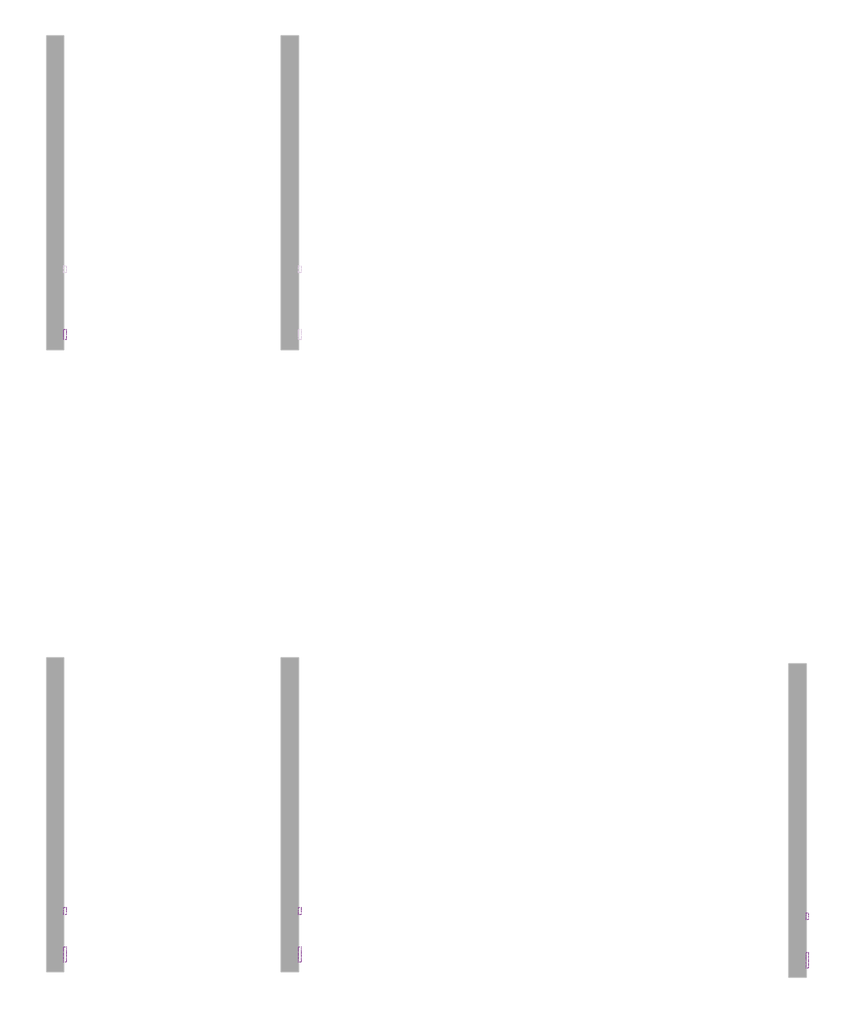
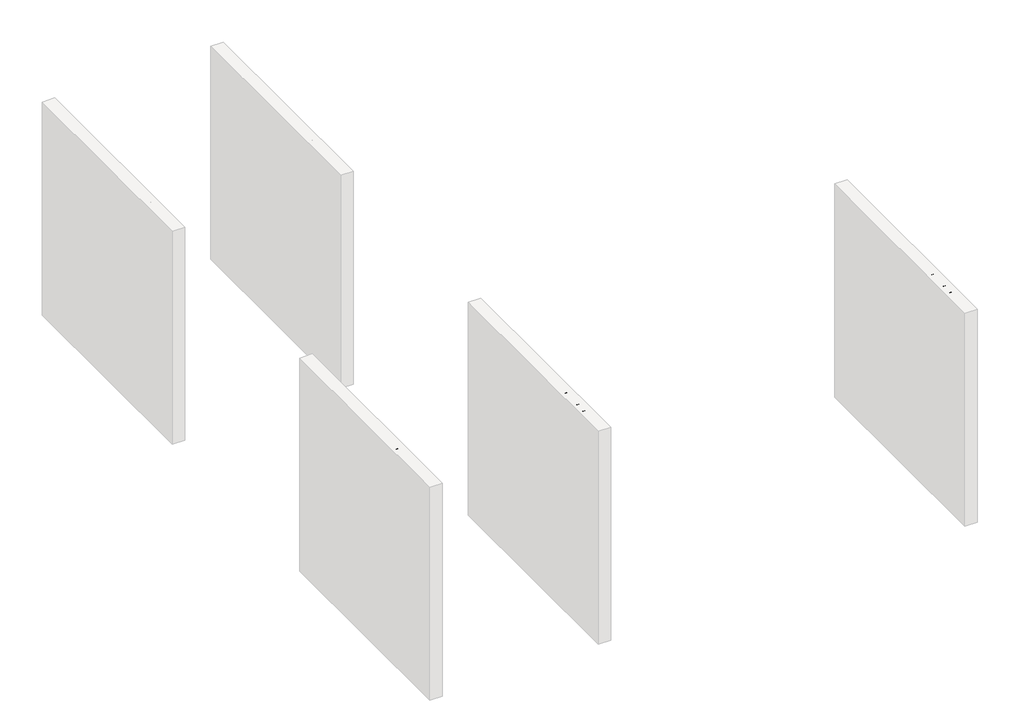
# One storey, part 7 of 9: 7 proxies.
"""IFC4 building model written with IfcOpenShell, lengths in millimetres."""

from ifc_helpers import new_model, si_unit, frame, origin, place, context, project, spatial, polyline, outline, extrude, element, save

model = new_model("IFC4")

# Units and contexts
model_context = context("Model", 3, world=origin())
ifc_project = project(units=[si_unit("LENGTHUNIT", "METRE", prefix="MILLI")], contexts=[model_context])

# Site, building, storey
site = spatial("IfcSite", under=ifc_project)
building = spatial("IfcBuilding", under=site)
storey = spatial("IfcBuildingStorey", under=building, Name="PORTOBELLO - SHOWROOM", Elevation=0.0)

# Proxies
placement = place(None, origin())
element("IfcBuildingElementProxy", 1, Name="10mm Arial", ObjectType="10mm Arial", at=placement, inside=storey, context=model_context, shape_type="SweptSolid", body=[
    extrude(outline(polyline([(6301.4109297, 2548.4925024), (6274.0159838, 2648.9488126), (6286.9654301, 2648.9488126), (6302.8579323, 2582.9262572), (6307.7630255, 2562.5455946), (6313.0114753, 2580.5718124), (6332.926154, 2648.9488126), (6351.5900339, 2648.9488126), (6366.060059, 2599.3828451), (6376.8267388, 2562.5455946), (6381.5846792, 2582.337646), (6397.6243342, 2648.9488126), (6410.5737804, 2648.9488126), (6383.1543091, 2548.4925024), (6369.738879, 2548.4925024), (6345.654871, 2625.9929761), (6342.2948821, 2636.8087067), (6338.5179603, 2623.7856841), (6316.5676679, 2548.4925024), (6301.4109297, 2548.4925024)])), frame((127826.5708693, 0.0, 0.0), z_axis=(1.0, 0.0, 0.0), x_axis=(0.0, 1.0, 0.0)), (0.0, 0.0, 1.0), 20.0),
    extrude(outline(polyline([(6421.5611894, 2548.4925024), (6421.5611894, 2648.9488126), (6434.1182281, 2648.9488126), (6434.1182281, 2612.0134603), (6443.9100206, 2620.8794163), (6455.9704186, 2623.834735), (6470.0725618, 2620.6096362), (6478.6319495, 2611.6946292), (6481.2071235, 2595.1889903), (6481.2071235, 2548.4925024), (6468.6500847, 2548.4925024), (6468.6500847, 2593.8891406), (6464.6524337, 2607.1328925), (6453.3216683, 2611.2776963), (6443.0332351, 2608.4817931), (6436.1661046, 2600.903424), (6434.1182281, 2587.6841976), (6434.1182281, 2548.4925024), (6421.5611894, 2548.4925024)])), frame((127826.5708693, 0.0, 0.0), z_axis=(1.0, 0.0, 0.0), x_axis=(0.0, 1.0, 0.0)), (0.0, 0.0, 1.0), 20.0),
    extrude(outline(polyline([(127846.5708693, 6511.0300906), (127846.5708693, 6498.4730518), (127826.5708693, 6498.4730518), (127826.5708693, 6511.0300906), (127846.5708693, 6511.0300906)])), frame((0.0, 0.0, 2636.3917738), z_axis=(0.0, 0.0, 1.0), x_axis=(1.0, 0.0, 0.0)), (0.0, 0.0, 1.0), 12.5570388),
    extrude(outline(polyline([(127846.5708693, 6511.0300906), (127846.5708693, 6498.4730518), (127826.5708693, 6498.4730518), (127826.5708693, 6511.0300906), (127846.5708693, 6511.0300906)])), frame((0.0, 0.0, 2548.4925024), z_axis=(0.0, 0.0, 1.0), x_axis=(1.0, 0.0, 0.0)), (0.0, 0.0, 1.0), 73.7726028),
    extrude(outline(polyline([(6556.5493561, 2558.9648766), (6558.118986, 2548.1246204), (6548.7257324, 2546.9228726), (6538.2043073, 2549.0075372), (6532.9558575, 2554.4767162), (6531.4352786, 2568.7260122), (6531.4352786, 2609.7080664), (6522.0174995, 2609.7080664), (6522.0174995, 2622.2651052), (6531.4352786, 2622.2651052), (6531.4352786, 2640.1932211), (6543.9923174, 2647.5753865), (6543.9923174, 2622.2651052), (6556.5493561, 2622.2651052), (6556.5493561, 2609.7080664), (6543.9923174, 2609.7080664), (6543.9923174, 2569.0938942), (6544.654505, 2562.619171), (6546.8004833, 2560.3260399), (6551.0801771, 2559.4799113), (6556.5493561, 2558.9648766)])), frame((127826.5708693, 0.0, 0.0), z_axis=(1.0, 0.0, 0.0), x_axis=(0.0, 1.0, 0.0)), (0.0, 0.0, 1.0), 20.0),
    extrude(outline(polyline([(6620.757027, 2570.4673203), (6633.0688111, 2568.8976904), (6628.6327674, 2559.6209328), (6621.5541047, 2552.6863572), (6611.9922385, 2548.3637437), (6600.1065844, 2546.9228726), (6585.3729105, 2549.4091417), (6574.0360136, 2556.8679492), (6566.8071324, 2568.814917), (6564.3975054, 2584.7656671), (6566.8316579, 2601.2529119), (6574.1341155, 2613.5830901), (6585.3177282, 2621.2718238), (6599.3953458, 2623.834735), (6613.0345708, 2621.2779552), (6623.9330749, 2613.6076156), (6631.0791827, 2601.3019628), (6633.4612186, 2584.8392435), (6633.3876422, 2581.4547292), (6576.9545441, 2581.4547292), (6579.1281136, 2572.0553442), (6584.177294, 2565.1452941), (6591.4644232, 2560.896257), (6600.351839, 2559.4799113), (6612.6636231, 2562.1041362), (6620.757027, 2570.4673203)]), holes=[polyline([(6576.9545441, 2594.011768), (6620.9041798, 2594.011768), (6615.8764592, 2605.3915843), (6608.5556075, 2609.8061683), (6599.3462949, 2611.2776963), (6583.8829884, 2606.5810695), (6579.017749, 2601.0904307), (6576.9545441, 2594.011768)])]), frame((127826.5708693, 0.0, 0.0), z_axis=(1.0, 0.0, 0.0), x_axis=(0.0, 1.0, 0.0)), (0.0, 0.0, 1.0), 20.0),
])
element("IfcBuildingElementProxy", 2, Name="10mm Arial", ObjectType="10mm Arial", at=placement, inside=storey, context=model_context, shape_type="SweptSolid", body=[
    extrude(outline(polyline([(6351.4109297, 2548.4925024), (6324.0159838, 2648.9488126), (6336.9654301, 2648.9488126), (6352.8579323, 2582.9262572), (6357.7630255, 2562.5455946), (6363.0114753, 2580.5718124), (6382.926154, 2648.9488126), (6401.5900339, 2648.9488126), (6416.060059, 2599.3828451), (6426.8267388, 2562.5455946), (6431.5846792, 2582.337646), (6447.6243342, 2648.9488126), (6460.5737804, 2648.9488126), (6433.1543091, 2548.4925024), (6419.738879, 2548.4925024), (6395.654871, 2625.9929761), (6392.2948821, 2636.8087067), (6388.5179603, 2623.7856841), (6366.5676679, 2548.4925024), (6351.4109297, 2548.4925024)])), frame((123459.5859035, 0.0, 0.0), z_axis=(1.0, 0.0, 0.0), x_axis=(0.0, 1.0, 0.0)), (0.0, 0.0, 1.0), 20.0),
    extrude(outline(polyline([(6471.5611894, 2548.4925024), (6471.5611894, 2648.9488126), (6484.1182281, 2648.9488126), (6484.1182281, 2612.0134603), (6493.9100206, 2620.8794163), (6505.9704186, 2623.834735), (6520.0725618, 2620.6096362), (6528.6319495, 2611.6946292), (6531.2071235, 2595.1889903), (6531.2071235, 2548.4925024), (6518.6500847, 2548.4925024), (6518.6500847, 2593.8891406), (6514.6524337, 2607.1328925), (6503.3216683, 2611.2776963), (6493.0332351, 2608.4817931), (6486.1661046, 2600.903424), (6484.1182281, 2587.6841976), (6484.1182281, 2548.4925024), (6471.5611894, 2548.4925024)])), frame((123459.5859035, 0.0, 0.0), z_axis=(1.0, 0.0, 0.0), x_axis=(0.0, 1.0, 0.0)), (0.0, 0.0, 1.0), 20.0),
    extrude(outline(polyline([(123479.5859035, 6561.0300906), (123479.5859035, 6548.4730518), (123459.5859035, 6548.4730518), (123459.5859035, 6561.0300906), (123479.5859035, 6561.0300906)])), frame((0.0, 0.0, 2636.3917738), z_axis=(0.0, 0.0, 1.0), x_axis=(1.0, 0.0, 0.0)), (0.0, 0.0, 1.0), 12.5570388),
    extrude(outline(polyline([(123479.5859035, 6561.0300906), (123479.5859035, 6548.4730518), (123459.5859035, 6548.4730518), (123459.5859035, 6561.0300906), (123479.5859035, 6561.0300906)])), frame((0.0, 0.0, 2548.4925024), z_axis=(0.0, 0.0, 1.0), x_axis=(1.0, 0.0, 0.0)), (0.0, 0.0, 1.0), 73.7726028),
    extrude(outline(polyline([(6606.5493561, 2558.9648766), (6608.118986, 2548.1246204), (6598.7257324, 2546.9228726), (6588.2043073, 2549.0075372), (6582.9558575, 2554.4767162), (6581.4352786, 2568.7260122), (6581.4352786, 2609.7080664), (6572.0174995, 2609.7080664), (6572.0174995, 2622.2651052), (6581.4352786, 2622.2651052), (6581.4352786, 2640.1932211), (6593.9923174, 2647.5753865), (6593.9923174, 2622.2651052), (6606.5493561, 2622.2651052), (6606.5493561, 2609.7080664), (6593.9923174, 2609.7080664), (6593.9923174, 2569.0938942), (6594.654505, 2562.619171), (6596.8004833, 2560.3260399), (6601.0801771, 2559.4799113), (6606.5493561, 2558.9648766)])), frame((123459.5859035, 0.0, 0.0), z_axis=(1.0, 0.0, 0.0), x_axis=(0.0, 1.0, 0.0)), (0.0, 0.0, 1.0), 20.0),
    extrude(outline(polyline([(6670.757027, 2570.4673203), (6683.0688111, 2568.8976904), (6678.6327674, 2559.6209328), (6671.5541047, 2552.6863572), (6661.9922385, 2548.3637437), (6650.1065844, 2546.9228726), (6635.3729105, 2549.4091417), (6624.0360136, 2556.8679492), (6616.8071324, 2568.814917), (6614.3975054, 2584.7656671), (6616.8316579, 2601.2529119), (6624.1341155, 2613.5830901), (6635.3177282, 2621.2718238), (6649.3953458, 2623.834735), (6663.0345708, 2621.2779552), (6673.9330749, 2613.6076156), (6681.0791827, 2601.3019628), (6683.4612186, 2584.8392435), (6683.3876422, 2581.4547292), (6626.9545441, 2581.4547292), (6629.1281136, 2572.0553442), (6634.177294, 2565.1452941), (6641.4644232, 2560.896257), (6650.351839, 2559.4799113), (6662.6636231, 2562.1041362), (6670.757027, 2570.4673203)]), holes=[polyline([(6626.9545441, 2594.011768), (6670.9041798, 2594.011768), (6665.8764592, 2605.3915843), (6658.5556075, 2609.8061683), (6649.3462949, 2611.2776963), (6633.8829884, 2606.5810695), (6629.017749, 2601.0904307), (6626.9545441, 2594.011768)])]), frame((123459.5859035, 0.0, 0.0), z_axis=(1.0, 0.0, 0.0), x_axis=(0.0, 1.0, 0.0)), (0.0, 0.0, 1.0), 20.0),
])
element("IfcBuildingElementProxy", 3, Name="10mm Arial", ObjectType="10mm Arial", at=placement, inside=storey, context=model_context, shape_type="SweptSolid", body=[
    extrude(outline(polyline([(6351.4109297, 2548.4925024), (6324.0159838, 2648.9488126), (6336.9654301, 2648.9488126), (6352.8579323, 2582.9262572), (6357.7630255, 2562.5455946), (6363.0114753, 2580.5718124), (6382.926154, 2648.9488126), (6401.5900339, 2648.9488126), (6416.060059, 2599.3828451), (6426.8267388, 2562.5455946), (6431.5846792, 2582.337646), (6447.6243342, 2648.9488126), (6460.5737804, 2648.9488126), (6433.1543091, 2548.4925024), (6419.738879, 2548.4925024), (6395.654871, 2625.9929761), (6392.2948821, 2636.8087067), (6388.5179603, 2623.7856841), (6366.5676679, 2548.4925024), (6351.4109297, 2548.4925024)])), frame((121439.5859035, 0.0, 0.0), z_axis=(1.0, 0.0, 0.0), x_axis=(0.0, 1.0, 0.0)), (0.0, 0.0, 1.0), 20.0),
    extrude(outline(polyline([(6471.5611894, 2548.4925024), (6471.5611894, 2648.9488126), (6484.1182281, 2648.9488126), (6484.1182281, 2612.0134603), (6493.9100206, 2620.8794163), (6505.9704186, 2623.834735), (6520.0725618, 2620.6096362), (6528.6319495, 2611.6946292), (6531.2071235, 2595.1889903), (6531.2071235, 2548.4925024), (6518.6500847, 2548.4925024), (6518.6500847, 2593.8891406), (6514.6524337, 2607.1328925), (6503.3216683, 2611.2776963), (6493.0332351, 2608.4817931), (6486.1661046, 2600.903424), (6484.1182281, 2587.6841976), (6484.1182281, 2548.4925024), (6471.5611894, 2548.4925024)])), frame((121439.5859035, 0.0, 0.0), z_axis=(1.0, 0.0, 0.0), x_axis=(0.0, 1.0, 0.0)), (0.0, 0.0, 1.0), 20.0),
    extrude(outline(polyline([(121459.5859035, 6561.0300906), (121459.5859035, 6548.4730518), (121439.5859035, 6548.4730518), (121439.5859035, 6561.0300906), (121459.5859035, 6561.0300906)])), frame((0.0, 0.0, 2636.3917738), z_axis=(0.0, 0.0, 1.0), x_axis=(1.0, 0.0, 0.0)), (0.0, 0.0, 1.0), 12.5570388),
    extrude(outline(polyline([(121459.5859035, 6561.0300906), (121459.5859035, 6548.4730518), (121439.5859035, 6548.4730518), (121439.5859035, 6561.0300906), (121459.5859035, 6561.0300906)])), frame((0.0, 0.0, 2548.4925024), z_axis=(0.0, 0.0, 1.0), x_axis=(1.0, 0.0, 0.0)), (0.0, 0.0, 1.0), 73.7726028),
    extrude(outline(polyline([(6606.5493561, 2558.9648766), (6608.118986, 2548.1246204), (6598.7257324, 2546.9228726), (6588.2043073, 2549.0075372), (6582.9558575, 2554.4767162), (6581.4352786, 2568.7260122), (6581.4352786, 2609.7080664), (6572.0174995, 2609.7080664), (6572.0174995, 2622.2651052), (6581.4352786, 2622.2651052), (6581.4352786, 2640.1932211), (6593.9923174, 2647.5753865), (6593.9923174, 2622.2651052), (6606.5493561, 2622.2651052), (6606.5493561, 2609.7080664), (6593.9923174, 2609.7080664), (6593.9923174, 2569.0938942), (6594.654505, 2562.619171), (6596.8004833, 2560.3260399), (6601.0801771, 2559.4799113), (6606.5493561, 2558.9648766)])), frame((121439.5859035, 0.0, 0.0), z_axis=(1.0, 0.0, 0.0), x_axis=(0.0, 1.0, 0.0)), (0.0, 0.0, 1.0), 20.0),
    extrude(outline(polyline([(6670.757027, 2570.4673203), (6683.0688111, 2568.8976904), (6678.6327674, 2559.6209328), (6671.5541047, 2552.6863572), (6661.9922385, 2548.3637437), (6650.1065844, 2546.9228726), (6635.3729105, 2549.4091417), (6624.0360136, 2556.8679492), (6616.8071324, 2568.814917), (6614.3975054, 2584.7656671), (6616.8316579, 2601.2529119), (6624.1341155, 2613.5830901), (6635.3177282, 2621.2718238), (6649.3953458, 2623.834735), (6663.0345708, 2621.2779552), (6673.9330749, 2613.6076156), (6681.0791827, 2601.3019628), (6683.4612186, 2584.8392435), (6683.3876422, 2581.4547292), (6626.9545441, 2581.4547292), (6629.1281136, 2572.0553442), (6634.177294, 2565.1452941), (6641.4644232, 2560.896257), (6650.351839, 2559.4799113), (6662.6636231, 2562.1041362), (6670.757027, 2570.4673203)]), holes=[polyline([(6626.9545441, 2594.011768), (6670.9041798, 2594.011768), (6665.8764592, 2605.3915843), (6658.5556075, 2609.8061683), (6649.3462949, 2611.2776963), (6633.8829884, 2606.5810695), (6629.017749, 2601.0904307), (6626.9545441, 2594.011768)])]), frame((121439.5859035, 0.0, 0.0), z_axis=(1.0, 0.0, 0.0), x_axis=(0.0, 1.0, 0.0)), (0.0, 0.0, 1.0), 20.0),
])
element("IfcBuildingElementProxy", 4, Name="10mm Arial", ObjectType="10mm Arial", at=placement, inside=storey, context=model_context, shape_type="SweptSolid", body=[
    extrude(outline(polyline([(11730.5226583, 2587.7332486), (11730.5226583, 2600.2902873), (11771.3330343, 2600.2902873), (11771.3330343, 2562.7417984), (11751.1853637, 2550.8959981), (11729.8849962, 2546.9228726), (11715.7981814, 2548.5016995), (11703.0663987, 2553.2381802), (11692.4897914, 2560.9667677), (11684.8685027, 2571.5219153), (11680.2607807, 2584.1831873), (11678.7248734, 2598.2301482), (11680.2546493, 2612.3782766), (11684.8439772, 2625.5392549), (11692.3027847, 2636.5787805), (11702.4409993, 2644.3625504), (11714.7895716, 2648.9794694), (11728.879452, 2650.5184424), (11748.5243506, 2646.9499871), (11762.2953999, 2637.0171732), (11769.8860318, 2620.4011697), (11758.3100117, 2617.1392827), (11752.5833153, 2628.752091), (11742.7976542, 2635.4475433), (11728.6832483, 2637.9614036), (11712.6068051, 2635.2513396), (11701.6684471, 2628.1389544), (11695.2059868, 2618.4636579), (11691.2819121, 2598.745183), (11696.0030644, 2576.8562043), (11709.7373256, 2563.7596052), (11728.879452, 2559.4799113), (11746.0595412, 2562.7050102), (11758.7759955, 2569.5844035), (11758.7759955, 2587.7332486), (11730.5226583, 2587.7332486)])), frame((121439.5859035, 0.0, 0.0), z_axis=(1.0, 0.0, 0.0), x_axis=(0.0, 1.0, 0.0)), (0.0, 0.0, 1.0), 20.0),
    extrude(outline(polyline([(11790.1685924, 2548.4925024), (11790.1685924, 2622.2651052), (11801.1560014, 2622.2651052), (11801.1560014, 2611.3512727), (11808.9550997, 2621.4067139), (11816.8032489, 2623.834735), (11829.4093386, 2619.9597114), (11825.2154839, 2608.7025223), (11816.386316, 2611.2776963), (11809.2861935, 2608.8006242), (11804.7612449, 2601.9334936), (11802.7256312, 2587.2672647), (11802.7256312, 2548.4925024), (11790.1685924, 2548.4925024)])), frame((121439.5859035, 0.0, 0.0), z_axis=(1.0, 0.0, 0.0), x_axis=(0.0, 1.0, 0.0)), (0.0, 0.0, 1.0), 20.0),
    extrude(outline(polyline([(11884.3463832, 2557.9102815), (11872.1694892, 2549.3999447), (11858.7172709, 2546.9228726), (11848.223437, 2548.4127947), (11840.4825867, 2552.8825609), (11835.7093178, 2559.6699837), (11834.1182281, 2568.1128755), (11836.5217238, 2578.0456894), (11842.8370314, 2585.2561765), (11851.6294111, 2589.3764548), (11862.4941927, 2591.2649157), (11884.2728068, 2595.5813978), (11884.3463832, 2598.377301), (11880.8882925, 2607.6479272), (11867.0068785, 2611.2776963), (11854.3026869, 2608.8619378), (11848.2448967, 2600.2902873), (11835.687858, 2601.8599172), (11841.1202488, 2614.1226504), (11852.0586068, 2621.308612), (11868.6255593, 2623.834735), (11883.8436111, 2621.6029176), (11892.4397871, 2615.9988485), (11896.2902853, 2607.476249), (11896.903422, 2596.4888401), (11896.903422, 2580.866118), (11897.5410841, 2559.0507157), (11900.0426817, 2548.4925024), (11887.4856429, 2548.4925024), (11884.3463832, 2557.9102815)]), holes=[polyline([(11884.3463832, 2583.024359), (11864.088348, 2579.1738608), (11853.2848801, 2577.1382471), (11848.3920495, 2573.8273092), (11846.6752669, 2568.9957923), (11850.4154005, 2562.2022381), (11861.3905467, 2559.4799113), (11874.0947383, 2562.484281), (11882.286244, 2569.7560817), (11884.2728068, 2579.4681664), (11884.3463832, 2583.024359)])]), frame((121439.5859035, 0.0, 0.0), z_axis=(1.0, 0.0, 0.0), x_axis=(0.0, 1.0, 0.0)), (0.0, 0.0, 1.0), 20.0),
    extrude(outline(polyline([(11914.1693503, 2520.2391652), (11914.1693503, 2622.2651052), (11926.7263891, 2622.2651052), (11926.7263891, 2609.9533211), (11935.4084041, 2620.3643815), (11947.1315771, 2623.834735), (11963.0486047, 2618.9786927), (11973.4474024, 2605.2934825), (11976.9545441, 2585.9428895), (11972.9936813, 2565.5990152), (11961.4912376, 2551.7421267), (11945.6109981, 2546.9228726), (11934.6849029, 2550.1479714), (11926.7263891, 2558.302689), (11926.7263891, 2520.2391652), (11914.1693503, 2520.2391652)]), holes=[polyline([(11926.7263891, 2584.7901926), (11928.0844868, 2573.5330036), (11932.1587798, 2565.6603289), (11938.1705848, 2561.0250157), (11945.341218, 2559.4799113), (11952.6283472, 2561.080198), (11958.7934363, 2565.8810581), (11962.9964881, 2574.041907), (11964.3975054, 2585.7221603), (11963.0302106, 2596.9180357), (11958.9283264, 2604.901075), (11952.9257185, 2609.683541), (11945.8562528, 2611.2776963), (11938.759196, 2609.5823734), (11932.5266618, 2604.4964048), (11928.1764573, 2596.179206), (11926.7263891, 2584.7901926)])]), frame((121439.5859035, 0.0, 0.0), z_axis=(1.0, 0.0, 0.0), x_axis=(0.0, 1.0, 0.0)), (0.0, 0.0, 1.0), 20.0),
    extrude(outline(polyline([(11991.0812127, 2548.4925024), (11991.0812127, 2648.9488126), (12003.6382515, 2648.9488126), (12003.6382515, 2612.0134603), (12013.4300439, 2620.8794163), (12025.490442, 2623.834735), (12039.5925852, 2620.6096362), (12048.1519729, 2611.6946292), (12050.7271469, 2595.1889903), (12050.7271469, 2548.4925024), (12038.1701081, 2548.4925024), (12038.1701081, 2593.8891406), (12034.1724571, 2607.1328925), (12022.8416917, 2611.2776963), (12012.5532585, 2608.4817931), (12005.686128, 2600.903424), (12003.6382515, 2587.6841976), (12003.6382515, 2548.4925024), (11991.0812127, 2548.4925024)])), frame((121439.5859035, 0.0, 0.0), z_axis=(1.0, 0.0, 0.0), x_axis=(0.0, 1.0, 0.0)), (0.0, 0.0, 1.0), 20.0),
    extrude(outline(polyline([(121459.5859035, 12080.550114), (121459.5859035, 12067.9930752), (121439.5859035, 12067.9930752), (121439.5859035, 12080.550114), (121459.5859035, 12080.550114)])), frame((0.0, 0.0, 2636.3917738), z_axis=(0.0, 0.0, 1.0), x_axis=(1.0, 0.0, 0.0)), (0.0, 0.0, 1.0), 12.5570388),
    extrude(outline(polyline([(121459.5859035, 12080.550114), (121459.5859035, 12067.9930752), (121439.5859035, 12067.9930752), (121439.5859035, 12080.550114), (121459.5859035, 12080.550114)])), frame((0.0, 0.0, 2548.4925024), z_axis=(0.0, 0.0, 1.0), x_axis=(1.0, 0.0, 0.0)), (0.0, 0.0, 1.0), 73.7726028),
    extrude(outline(polyline([(12126.0693795, 2558.9648766), (12127.6390094, 2548.1246204), (12118.2457557, 2546.9228726), (12107.7243307, 2549.0075372), (12102.4758809, 2554.4767162), (12100.955302, 2568.7260122), (12100.955302, 2609.7080664), (12091.5375229, 2609.7080664), (12091.5375229, 2622.2651052), (12100.955302, 2622.2651052), (12100.955302, 2640.1932211), (12113.5123407, 2647.5753865), (12113.5123407, 2622.2651052), (12126.0693795, 2622.2651052), (12126.0693795, 2609.7080664), (12113.5123407, 2609.7080664), (12113.5123407, 2569.0938942), (12114.1745283, 2562.619171), (12116.3205066, 2560.3260399), (12120.6002005, 2559.4799113), (12126.0693795, 2558.9648766)])), frame((121439.5859035, 0.0, 0.0), z_axis=(1.0, 0.0, 0.0), x_axis=(0.0, 1.0, 0.0)), (0.0, 0.0, 1.0), 20.0),
    extrude(outline(polyline([(12190.2770504, 2570.4673203), (12202.5888345, 2568.8976904), (12198.1527908, 2559.6209328), (12191.0741281, 2552.6863572), (12181.5122619, 2548.3637437), (12169.6266077, 2546.9228726), (12154.8929338, 2549.4091417), (12143.556037, 2556.8679492), (12136.3271558, 2568.814917), (12133.9175287, 2584.7656671), (12136.3516813, 2601.2529119), (12143.6541389, 2613.5830901), (12154.8377515, 2621.2718238), (12168.9153692, 2623.834735), (12182.5545942, 2621.2779552), (12193.4530983, 2613.6076156), (12200.599206, 2601.3019628), (12202.981242, 2584.8392435), (12202.9076656, 2581.4547292), (12146.4745675, 2581.4547292), (12148.648137, 2572.0553442), (12153.6973173, 2565.1452941), (12160.9844465, 2560.896257), (12169.8718624, 2559.4799113), (12182.1836465, 2562.1041362), (12190.2770504, 2570.4673203)]), holes=[polyline([(12146.4745675, 2594.011768), (12190.4242032, 2594.011768), (12185.3964826, 2605.3915843), (12178.0756309, 2609.8061683), (12168.8663183, 2611.2776963), (12153.4030117, 2606.5810695), (12148.5377724, 2601.0904307), (12146.4745675, 2594.011768)])]), frame((121439.5859035, 0.0, 0.0), z_axis=(1.0, 0.0, 0.0), x_axis=(0.0, 1.0, 0.0)), (0.0, 0.0, 1.0), 20.0),
])
element("IfcBuildingElementProxy", 5, Name="10mm Arial Narrow", ObjectType="10mm Arial Narrow", at=placement, inside=storey, context=model_context, shape_type="SweptSolid", body=[
    extrude(outline(polyline([(6690.568822, 2548.4925024), (6690.568822, 2649.2111062), (6721.8657067, 2649.2111062), (6738.1614082, 2647.3327854), (6749.6343943, 2637.8523423), (6753.9240728, 2620.8332334), (6752.1377644, 2608.7574079), (6746.7788392, 2599.1310141), (6737.0350504, 2592.8297557), (6722.0941511, 2590.7293363), (6700.3157837, 2590.7293363), (6700.3157837, 2548.4925024), (6690.568822, 2548.4925024)]), holes=[polyline([(6700.3157837, 2602.1007915), (6723.2871386, 2602.1007915), (6739.151334, 2606.6316057), (6744.1771111, 2620.3001965), (6741.7022966, 2630.4659729), (6735.7246678, 2636.2659227), (6723.0586942, 2637.8396509), (6700.3157837, 2637.8396509), (6700.3157837, 2602.1007915)])]), frame((127826.5708693, 0.0, 0.0), z_axis=(1.0, 0.0, 0.0), x_axis=(0.0, 1.0, 0.0)), (0.0, 0.0, 1.0), 20.0),
    extrude(outline(polyline([(6762.0465408, 2585.0436086), (6764.0010097, 2601.6343842), (6769.8644163, 2613.586469), (6778.722983, 2620.8110236), (6789.6629322, 2623.2192084), (6800.4759678, 2620.8110236), (6809.3599172, 2613.586469), (6815.2994719, 2601.8247545), (6817.2793235, 2585.80509), (6815.3343732, 2568.6432034), (6809.4995221, 2556.5007483), (6800.6504739, 2549.2761937), (6789.6629322, 2546.8680088), (6778.802304, 2549.2825394), (6769.9278731, 2556.526131), (6764.0168739, 2568.4845615), (6762.0465408, 2585.0436086)]), holes=[polyline([(6771.7935025, 2585.0689913), (6773.0975393, 2572.5172399), (6777.0096499, 2563.6459819), (6782.8508467, 2558.3727233), (6789.942142, 2556.6149705), (6796.6622152, 2558.3885875), (6802.3542885, 2563.7094386), (6806.2378435, 2572.5965609), (6807.5323619, 2585.0689913), (6806.228325, 2597.5826687), (6802.3162144, 2606.4412354), (6796.4750177, 2611.7144939), (6789.3837223, 2613.4722468), (6782.6160566, 2611.7049754), (6776.9335018, 2606.4031613), (6773.0785023, 2597.5350761), (6771.7935025, 2585.0689913)])]), frame((127826.5708693, 0.0, 0.0), z_axis=(1.0, 0.0, 0.0), x_axis=(0.0, 1.0, 0.0)), (0.0, 0.0, 1.0), 20.0),
    extrude(outline(polyline([(6888.7570423, 2556.6149705), (6890.3815359, 2546.8680088), (6883.0205493, 2546.8680088), (6874.7457849, 2548.9874653), (6870.4307238, 2554.7874152), (6869.263119, 2569.4332403), (6869.263119, 2611.8477532), (6861.140651, 2611.8477532), (6861.140651, 2615.0967404), (6859.5161574, 2610.2232596), (6851.952109, 2611.8477532), (6845.8729493, 2609.525235), (6842.0020856, 2603.0399519), (6840.0222341, 2587.6326453), (6840.0222341, 2548.4925024), (6830.2752724, 2548.4925024), (6830.2752724, 2621.5947148), (6840.0222341, 2621.5947148), (6840.0222341, 2611.8985186), (6846.2663814, 2620.9855297), (6852.6628249, 2623.2192084), (6861.140651, 2621.5947148), (6869.263119, 2621.5947148), (6869.263119, 2637.8396509), (6879.0100807, 2645.962119), (6879.0100807, 2621.5947148), (6888.7570423, 2621.5947148), (6888.7570423, 2611.8477532), (6879.0100807, 2611.8477532), (6879.0100807, 2567.1995616), (6879.8730929, 2559.2040072), (6884.4927466, 2556.6149705), (6888.7570423, 2556.6149705)])), frame((127826.5708693, 0.0, 0.0), z_axis=(1.0, 0.0, 0.0), x_axis=(0.0, 1.0, 0.0)), (0.0, 0.0, 1.0), 20.0),
    extrude(outline(polyline([(6895.2550168, 2585.0436086), (6897.2094856, 2601.6343842), (6903.0728922, 2613.586469), (6911.931459, 2620.8110236), (6922.8714081, 2623.2192084), (6933.6844437, 2620.8110236), (6942.5683931, 2613.586469), (6948.5079479, 2601.8247545), (6950.4877995, 2585.80509), (6948.5428491, 2568.6432034), (6942.707998, 2556.5007483), (6933.8589498, 2549.2761937), (6922.8714081, 2546.8680088), (6912.0107799, 2549.2825394), (6903.136349, 2556.526131), (6897.2253498, 2568.4845615), (6895.2550168, 2585.0436086)]), holes=[polyline([(6905.0019784, 2585.0689913), (6906.3060153, 2572.5172399), (6910.2181259, 2563.6459819), (6916.0593226, 2558.3727233), (6923.1506179, 2556.6149705), (6929.8706911, 2558.3885875), (6935.5627644, 2563.7094386), (6939.4463195, 2572.5965609), (6940.7408378, 2585.0689913), (6939.4368009, 2597.5826687), (6935.5246904, 2606.4412354), (6929.6834936, 2611.7144939), (6922.5921983, 2613.4722468), (6915.8245325, 2611.7049754), (6910.1419777, 2606.4031613), (6906.2869782, 2597.5350761), (6905.0019784, 2585.0689913)])]), frame((127826.5708693, 0.0, 0.0), z_axis=(1.0, 0.0, 0.0), x_axis=(0.0, 1.0, 0.0)), (0.0, 0.0, 1.0), 20.0),
    extrude(outline(polyline([(6973.23071, 2548.4925024), (6963.4837483, 2548.4925024), (6963.4837483, 2649.2111062), (6973.23071, 2649.2111062), (6973.23071, 2613.802222), (6980.6297707, 2620.8839989), (6989.831004, 2623.2192084), (7002.7127307, 2619.0183695), (7011.9901122, 2606.2889391), (7015.4675438, 2585.6020283), (7013.5352848, 2569.1476848), (7007.7385078, 2556.9449457), (6999.3653855, 2549.387243), (6989.7040905, 2546.8680088), (6980.3632522, 2549.4824282), (6973.23071, 2557.2495383), (6973.23071, 2548.4925024)]), holes=[polyline([(6973.23071, 2585.6020283), (6975.3120924, 2568.3544751), (6981.2008818, 2559.6228219), (6989.6533251, 2556.6149705), (6995.5960527, 2558.4044517), (7000.83441, 2563.7728954), (7005.7205822, 2585.1959049), (7001.012089, 2606.6316057), (6995.767386, 2611.7620865), (6989.4502634, 2613.4722468), (6983.4726345, 2611.6827655), (6978.1803389, 2606.3143218), (6973.23071, 2585.6020283)])]), frame((127826.5708693, 0.0, 0.0), z_axis=(1.0, 0.0, 0.0), x_axis=(0.0, 1.0, 0.0)), (0.0, 0.0, 1.0), 20.0),
    extrude(outline(polyline([(7067.4513393, 2571.2354129), (7077.198301, 2569.6109193), (7073.4987706, 2559.7243528), (7067.6797837, 2552.6045019), (7059.9761304, 2548.3021321), (7050.6226008, 2546.8680088), (7039.0290468, 2549.2825394), (7029.8849246, 2556.526131), (7023.9453698, 2568.3322652), (7021.9655182, 2584.4344235), (7023.9548884, 2601.1013472), (7029.9229987, 2613.2818764), (7038.9370345, 2620.7348754), (7050.0641811, 2623.2192084), (7060.7471303, 2620.8205421), (7069.4946477, 2613.6245431), (7075.3294987, 2601.8850385), (7077.2744491, 2585.8558554), (7077.198301, 2582.6068682), (7031.7124799, 2582.6068682), (7037.7154914, 2563.1637103), (7043.6455277, 2558.2521554), (7050.7495144, 2556.6149705), (7060.9279822, 2560.2700811), (7067.4513393, 2571.2354129)]), holes=[polyline([(7032.3724304, 2592.3538299), (7067.4513393, 2592.3538299), (7063.1870436, 2606.6189144), (7057.361711, 2611.7589137), (7050.1403293, 2613.4722468), (7037.9312445, 2607.7611364), (7032.3724304, 2592.3538299)])]), frame((127826.5708693, 0.0, 0.0), z_axis=(1.0, 0.0, 0.0), x_axis=(0.0, 1.0, 0.0)), (0.0, 0.0, 1.0), 20.0),
    extrude(outline(polyline([(127846.5708693, 7099.9412115), (127846.5708693, 7090.1942498), (127826.5708693, 7090.1942498), (127826.5708693, 7099.9412115), (127846.5708693, 7099.9412115)])), frame((0.0, 0.0, 2548.4925024), z_axis=(0.0, 0.0, 1.0), x_axis=(1.0, 0.0, 0.0)), (0.0, 0.0, 1.0), 100.7186038),
    extrude(outline(polyline([(127846.5708693, 7125.9331092), (127846.5708693, 7116.1861476), (127826.5708693, 7116.1861476), (127826.5708693, 7125.9331092), (127846.5708693, 7125.9331092)])), frame((0.0, 0.0, 2548.4925024), z_axis=(0.0, 0.0, 1.0), x_axis=(1.0, 0.0, 0.0)), (0.0, 0.0, 1.0), 100.7186038),
    extrude(outline(polyline([(7137.3045645, 2585.0436086), (7139.2590334, 2601.6343842), (7145.12244, 2613.586469), (7153.9810067, 2620.8110236), (7164.9209558, 2623.2192084), (7175.7339914, 2620.8110236), (7184.6179408, 2613.586469), (7190.5574956, 2601.8247545), (7192.5373472, 2585.80509), (7190.5923968, 2568.6432034), (7184.7575458, 2556.5007483), (7175.9084976, 2549.2761937), (7164.9209558, 2546.8680088), (7154.0603277, 2549.2825394), (7145.1858968, 2556.526131), (7139.2748976, 2568.4845615), (7137.3045645, 2585.0436086)]), holes=[polyline([(7147.0515261, 2585.0689913), (7148.355563, 2572.5172399), (7152.2676736, 2563.6459819), (7158.1088703, 2558.3727233), (7165.2001657, 2556.6149705), (7171.9202388, 2558.3885875), (7177.6123122, 2563.7094386), (7181.4958672, 2572.5965609), (7182.7903855, 2585.0689913), (7181.4863487, 2597.5826687), (7177.5742381, 2606.4412354), (7171.7330413, 2611.7144939), (7164.641746, 2613.4722468), (7157.8740802, 2611.7049754), (7152.1915254, 2606.4031613), (7148.336526, 2597.5350761), (7147.0515261, 2585.0689913)])]), frame((127826.5708693, 0.0, 0.0), z_axis=(1.0, 0.0, 0.0), x_axis=(0.0, 1.0, 0.0)), (0.0, 0.0, 1.0), 20.0),
])
element("IfcBuildingElementProxy", 6, Name="10mm Arial Narrow", ObjectType="10mm Arial Narrow", at=placement, inside=storey, context=model_context, shape_type="SweptSolid", body=[
    extrude(outline(polyline([(6735.568822, 2548.4925024), (6735.568822, 2649.2111062), (6766.8657067, 2649.2111062), (6783.1614082, 2647.3327854), (6794.6343943, 2637.8523423), (6798.9240728, 2620.8332334), (6797.1377644, 2608.7574079), (6791.7788392, 2599.1310141), (6782.0350504, 2592.8297557), (6767.0941511, 2590.7293363), (6745.3157837, 2590.7293363), (6745.3157837, 2548.4925024), (6735.568822, 2548.4925024)]), holes=[polyline([(6745.3157837, 2602.1007915), (6768.2871386, 2602.1007915), (6784.151334, 2606.6316057), (6789.1771111, 2620.3001965), (6786.7022966, 2630.4659729), (6780.7246678, 2636.2659227), (6768.0586942, 2637.8396509), (6745.3157837, 2637.8396509), (6745.3157837, 2602.1007915)])]), frame((123459.5859035, 0.0, 0.0), z_axis=(1.0, 0.0, 0.0), x_axis=(0.0, 1.0, 0.0)), (0.0, 0.0, 1.0), 20.0),
    extrude(outline(polyline([(6807.0465408, 2585.0436086), (6809.0010097, 2601.6343842), (6814.8644163, 2613.586469), (6823.722983, 2620.8110236), (6834.6629322, 2623.2192084), (6845.4759678, 2620.8110236), (6854.3599172, 2613.586469), (6860.2994719, 2601.8247545), (6862.2793235, 2585.80509), (6860.3343732, 2568.6432034), (6854.4995221, 2556.5007483), (6845.6504739, 2549.2761937), (6834.6629322, 2546.8680088), (6823.802304, 2549.2825394), (6814.9278731, 2556.526131), (6809.0168739, 2568.4845615), (6807.0465408, 2585.0436086)]), holes=[polyline([(6816.7935025, 2585.0689913), (6818.0975393, 2572.5172399), (6822.0096499, 2563.6459819), (6827.8508467, 2558.3727233), (6834.942142, 2556.6149705), (6841.6622152, 2558.3885875), (6847.3542885, 2563.7094386), (6851.2378435, 2572.5965609), (6852.5323619, 2585.0689913), (6851.228325, 2597.5826687), (6847.3162144, 2606.4412354), (6841.4750177, 2611.7144939), (6834.3837223, 2613.4722468), (6827.6160566, 2611.7049754), (6821.9335018, 2606.4031613), (6818.0785023, 2597.5350761), (6816.7935025, 2585.0689913)])]), frame((123459.5859035, 0.0, 0.0), z_axis=(1.0, 0.0, 0.0), x_axis=(0.0, 1.0, 0.0)), (0.0, 0.0, 1.0), 20.0),
    extrude(outline(polyline([(6933.7570423, 2556.6149705), (6935.3815359, 2546.8680088), (6928.0205493, 2546.8680088), (6919.7457849, 2548.9874653), (6915.4307238, 2554.7874152), (6914.263119, 2569.4332403), (6914.263119, 2611.8477532), (6906.140651, 2611.8477532), (6906.140651, 2615.0967404), (6904.5161574, 2610.2232596), (6896.952109, 2611.8477532), (6890.8729493, 2609.525235), (6887.0020856, 2603.0399519), (6885.0222341, 2587.6326453), (6885.0222341, 2548.4925024), (6875.2752724, 2548.4925024), (6875.2752724, 2621.5947148), (6885.0222341, 2621.5947148), (6885.0222341, 2611.8985186), (6891.2663814, 2620.9855297), (6897.6628249, 2623.2192084), (6906.140651, 2621.5947148), (6914.263119, 2621.5947148), (6914.263119, 2637.8396509), (6924.0100807, 2645.962119), (6924.0100807, 2621.5947148), (6933.7570423, 2621.5947148), (6933.7570423, 2611.8477532), (6924.0100807, 2611.8477532), (6924.0100807, 2567.1995616), (6924.8730929, 2559.2040072), (6929.4927466, 2556.6149705), (6933.7570423, 2556.6149705)])), frame((123459.5859035, 0.0, 0.0), z_axis=(1.0, 0.0, 0.0), x_axis=(0.0, 1.0, 0.0)), (0.0, 0.0, 1.0), 20.0),
    extrude(outline(polyline([(6940.2550168, 2585.0436086), (6942.2094856, 2601.6343842), (6948.0728922, 2613.586469), (6956.931459, 2620.8110236), (6967.8714081, 2623.2192084), (6978.6844437, 2620.8110236), (6987.5683931, 2613.586469), (6993.5079479, 2601.8247545), (6995.4877995, 2585.80509), (6993.5428491, 2568.6432034), (6987.707998, 2556.5007483), (6978.8589498, 2549.2761937), (6967.8714081, 2546.8680088), (6957.0107799, 2549.2825394), (6948.136349, 2556.526131), (6942.2253498, 2568.4845615), (6940.2550168, 2585.0436086)]), holes=[polyline([(6950.0019784, 2585.0689913), (6951.3060153, 2572.5172399), (6955.2181259, 2563.6459819), (6961.0593226, 2558.3727233), (6968.1506179, 2556.6149705), (6974.8706911, 2558.3885875), (6980.5627644, 2563.7094386), (6984.4463195, 2572.5965609), (6985.7408378, 2585.0689913), (6984.4368009, 2597.5826687), (6980.5246904, 2606.4412354), (6974.6834936, 2611.7144939), (6967.5921983, 2613.4722468), (6960.8245325, 2611.7049754), (6955.1419777, 2606.4031613), (6951.2869782, 2597.5350761), (6950.0019784, 2585.0689913)])]), frame((123459.5859035, 0.0, 0.0), z_axis=(1.0, 0.0, 0.0), x_axis=(0.0, 1.0, 0.0)), (0.0, 0.0, 1.0), 20.0),
    extrude(outline(polyline([(7018.23071, 2548.4925024), (7008.4837483, 2548.4925024), (7008.4837483, 2649.2111062), (7018.23071, 2649.2111062), (7018.23071, 2613.802222), (7025.6297707, 2620.8839989), (7034.831004, 2623.2192084), (7047.7127307, 2619.0183695), (7056.9901122, 2606.2889391), (7060.4675438, 2585.6020283), (7058.5352848, 2569.1476848), (7052.7385078, 2556.9449457), (7044.3653855, 2549.387243), (7034.7040905, 2546.8680088), (7025.3632522, 2549.4824282), (7018.23071, 2557.2495383), (7018.23071, 2548.4925024)]), holes=[polyline([(7018.23071, 2585.6020283), (7020.3120924, 2568.3544751), (7026.2008818, 2559.6228219), (7034.6533251, 2556.6149705), (7040.5960527, 2558.4044517), (7045.83441, 2563.7728954), (7050.7205822, 2585.1959049), (7046.012089, 2606.6316057), (7040.767386, 2611.7620865), (7034.4502634, 2613.4722468), (7028.4726345, 2611.6827655), (7023.1803389, 2606.3143218), (7018.23071, 2585.6020283)])]), frame((123459.5859035, 0.0, 0.0), z_axis=(1.0, 0.0, 0.0), x_axis=(0.0, 1.0, 0.0)), (0.0, 0.0, 1.0), 20.0),
    extrude(outline(polyline([(7112.4513393, 2571.2354129), (7122.198301, 2569.6109193), (7118.4987706, 2559.7243528), (7112.6797837, 2552.6045019), (7104.9761304, 2548.3021321), (7095.6226008, 2546.8680088), (7084.0290468, 2549.2825394), (7074.8849246, 2556.526131), (7068.9453698, 2568.3322652), (7066.9655182, 2584.4344235), (7068.9548884, 2601.1013472), (7074.9229987, 2613.2818764), (7083.9370345, 2620.7348754), (7095.0641811, 2623.2192084), (7105.7471303, 2620.8205421), (7114.4946477, 2613.6245431), (7120.3294987, 2601.8850385), (7122.2744491, 2585.8558554), (7122.198301, 2582.6068682), (7076.7124799, 2582.6068682), (7082.7154914, 2563.1637103), (7088.6455277, 2558.2521554), (7095.7495144, 2556.6149705), (7105.9279822, 2560.2700811), (7112.4513393, 2571.2354129)]), holes=[polyline([(7077.3724304, 2592.3538299), (7112.4513393, 2592.3538299), (7108.1870436, 2606.6189144), (7102.361711, 2611.7589137), (7095.1403293, 2613.4722468), (7082.9312445, 2607.7611364), (7077.3724304, 2592.3538299)])]), frame((123459.5859035, 0.0, 0.0), z_axis=(1.0, 0.0, 0.0), x_axis=(0.0, 1.0, 0.0)), (0.0, 0.0, 1.0), 20.0),
    extrude(outline(polyline([(123479.5859035, 7144.9412115), (123479.5859035, 7135.1942498), (123459.5859035, 7135.1942498), (123459.5859035, 7144.9412115), (123479.5859035, 7144.9412115)])), frame((0.0, 0.0, 2548.4925024), z_axis=(0.0, 0.0, 1.0), x_axis=(1.0, 0.0, 0.0)), (0.0, 0.0, 1.0), 100.7186038),
    extrude(outline(polyline([(123479.5859035, 7170.9331092), (123479.5859035, 7161.1861476), (123459.5859035, 7161.1861476), (123459.5859035, 7170.9331092), (123479.5859035, 7170.9331092)])), frame((0.0, 0.0, 2548.4925024), z_axis=(0.0, 0.0, 1.0), x_axis=(1.0, 0.0, 0.0)), (0.0, 0.0, 1.0), 100.7186038),
    extrude(outline(polyline([(7182.3045645, 2585.0436086), (7184.2590334, 2601.6343842), (7190.12244, 2613.586469), (7198.9810067, 2620.8110236), (7209.9209558, 2623.2192084), (7220.7339914, 2620.8110236), (7229.6179408, 2613.586469), (7235.5574956, 2601.8247545), (7237.5373472, 2585.80509), (7235.5923968, 2568.6432034), (7229.7575458, 2556.5007483), (7220.9084976, 2549.2761937), (7209.9209558, 2546.8680088), (7199.0603277, 2549.2825394), (7190.1858968, 2556.526131), (7184.2748976, 2568.4845615), (7182.3045645, 2585.0436086)]), holes=[polyline([(7192.0515261, 2585.0689913), (7193.355563, 2572.5172399), (7197.2676736, 2563.6459819), (7203.1088703, 2558.3727233), (7210.2001657, 2556.6149705), (7216.9202388, 2558.3885875), (7222.6123122, 2563.7094386), (7226.4958672, 2572.5965609), (7227.7903855, 2585.0689913), (7226.4863487, 2597.5826687), (7222.5742381, 2606.4412354), (7216.7330413, 2611.7144939), (7209.641746, 2613.4722468), (7202.8740802, 2611.7049754), (7197.1915254, 2606.4031613), (7193.336526, 2597.5350761), (7192.0515261, 2585.0689913)])]), frame((123459.5859035, 0.0, 0.0), z_axis=(1.0, 0.0, 0.0), x_axis=(0.0, 1.0, 0.0)), (0.0, 0.0, 1.0), 20.0),
])
element("IfcBuildingElementProxy", 7, Name="10mm Arial Narrow", ObjectType="10mm Arial Narrow", at=placement, inside=storey, context=model_context, shape_type="SweptSolid", body=[
    extrude(outline(polyline([(6735.568822, 2548.4925024), (6735.568822, 2649.2111062), (6766.8657067, 2649.2111062), (6783.1614082, 2647.3327854), (6794.6343943, 2637.8523423), (6798.9240728, 2620.8332334), (6797.1377644, 2608.7574079), (6791.7788392, 2599.1310141), (6782.0350504, 2592.8297557), (6767.0941511, 2590.7293363), (6745.3157837, 2590.7293363), (6745.3157837, 2548.4925024), (6735.568822, 2548.4925024)]), holes=[polyline([(6745.3157837, 2602.1007915), (6768.2871386, 2602.1007915), (6784.151334, 2606.6316057), (6789.1771111, 2620.3001965), (6786.7022966, 2630.4659729), (6780.7246678, 2636.2659227), (6768.0586942, 2637.8396509), (6745.3157837, 2637.8396509), (6745.3157837, 2602.1007915)])]), frame((121439.5859035, 0.0, 0.0), z_axis=(1.0, 0.0, 0.0), x_axis=(0.0, 1.0, 0.0)), (0.0, 0.0, 1.0), 20.0),
    extrude(outline(polyline([(6807.0465408, 2585.0436086), (6809.0010097, 2601.6343842), (6814.8644163, 2613.586469), (6823.722983, 2620.8110236), (6834.6629322, 2623.2192084), (6845.4759678, 2620.8110236), (6854.3599172, 2613.586469), (6860.2994719, 2601.8247545), (6862.2793235, 2585.80509), (6860.3343732, 2568.6432034), (6854.4995221, 2556.5007483), (6845.6504739, 2549.2761937), (6834.6629322, 2546.8680088), (6823.802304, 2549.2825394), (6814.9278731, 2556.526131), (6809.0168739, 2568.4845615), (6807.0465408, 2585.0436086)]), holes=[polyline([(6816.7935025, 2585.0689913), (6818.0975393, 2572.5172399), (6822.0096499, 2563.6459819), (6827.8508467, 2558.3727233), (6834.942142, 2556.6149705), (6841.6622152, 2558.3885875), (6847.3542885, 2563.7094386), (6851.2378435, 2572.5965609), (6852.5323619, 2585.0689913), (6851.228325, 2597.5826687), (6847.3162144, 2606.4412354), (6841.4750177, 2611.7144939), (6834.3837223, 2613.4722468), (6827.6160566, 2611.7049754), (6821.9335018, 2606.4031613), (6818.0785023, 2597.5350761), (6816.7935025, 2585.0689913)])]), frame((121439.5859035, 0.0, 0.0), z_axis=(1.0, 0.0, 0.0), x_axis=(0.0, 1.0, 0.0)), (0.0, 0.0, 1.0), 20.0),
    extrude(outline(polyline([(6933.7570423, 2556.6149705), (6935.3815359, 2546.8680088), (6928.0205493, 2546.8680088), (6919.7457849, 2548.9874653), (6915.4307238, 2554.7874152), (6914.263119, 2569.4332403), (6914.263119, 2611.8477532), (6906.140651, 2611.8477532), (6906.140651, 2615.0967404), (6904.5161574, 2610.2232596), (6896.952109, 2611.8477532), (6890.8729493, 2609.525235), (6887.0020856, 2603.0399519), (6885.0222341, 2587.6326453), (6885.0222341, 2548.4925024), (6875.2752724, 2548.4925024), (6875.2752724, 2621.5947148), (6885.0222341, 2621.5947148), (6885.0222341, 2611.8985186), (6891.2663814, 2620.9855297), (6897.6628249, 2623.2192084), (6906.140651, 2621.5947148), (6914.263119, 2621.5947148), (6914.263119, 2637.8396509), (6924.0100807, 2645.962119), (6924.0100807, 2621.5947148), (6933.7570423, 2621.5947148), (6933.7570423, 2611.8477532), (6924.0100807, 2611.8477532), (6924.0100807, 2567.1995616), (6924.8730929, 2559.2040072), (6929.4927466, 2556.6149705), (6933.7570423, 2556.6149705)])), frame((121439.5859035, 0.0, 0.0), z_axis=(1.0, 0.0, 0.0), x_axis=(0.0, 1.0, 0.0)), (0.0, 0.0, 1.0), 20.0),
    extrude(outline(polyline([(6940.2550168, 2585.0436086), (6942.2094856, 2601.6343842), (6948.0728922, 2613.586469), (6956.931459, 2620.8110236), (6967.8714081, 2623.2192084), (6978.6844437, 2620.8110236), (6987.5683931, 2613.586469), (6993.5079479, 2601.8247545), (6995.4877995, 2585.80509), (6993.5428491, 2568.6432034), (6987.707998, 2556.5007483), (6978.8589498, 2549.2761937), (6967.8714081, 2546.8680088), (6957.0107799, 2549.2825394), (6948.136349, 2556.526131), (6942.2253498, 2568.4845615), (6940.2550168, 2585.0436086)]), holes=[polyline([(6950.0019784, 2585.0689913), (6951.3060153, 2572.5172399), (6955.2181259, 2563.6459819), (6961.0593226, 2558.3727233), (6968.1506179, 2556.6149705), (6974.8706911, 2558.3885875), (6980.5627644, 2563.7094386), (6984.4463195, 2572.5965609), (6985.7408378, 2585.0689913), (6984.4368009, 2597.5826687), (6980.5246904, 2606.4412354), (6974.6834936, 2611.7144939), (6967.5921983, 2613.4722468), (6960.8245325, 2611.7049754), (6955.1419777, 2606.4031613), (6951.2869782, 2597.5350761), (6950.0019784, 2585.0689913)])]), frame((121439.5859035, 0.0, 0.0), z_axis=(1.0, 0.0, 0.0), x_axis=(0.0, 1.0, 0.0)), (0.0, 0.0, 1.0), 20.0),
    extrude(outline(polyline([(7018.23071, 2548.4925024), (7008.4837483, 2548.4925024), (7008.4837483, 2649.2111062), (7018.23071, 2649.2111062), (7018.23071, 2613.802222), (7025.6297707, 2620.8839989), (7034.831004, 2623.2192084), (7047.7127307, 2619.0183695), (7056.9901122, 2606.2889391), (7060.4675438, 2585.6020283), (7058.5352848, 2569.1476848), (7052.7385078, 2556.9449457), (7044.3653855, 2549.387243), (7034.7040905, 2546.8680088), (7025.3632522, 2549.4824282), (7018.23071, 2557.2495383), (7018.23071, 2548.4925024)]), holes=[polyline([(7018.23071, 2585.6020283), (7020.3120924, 2568.3544751), (7026.2008818, 2559.6228219), (7034.6533251, 2556.6149705), (7040.5960527, 2558.4044517), (7045.83441, 2563.7728954), (7050.7205822, 2585.1959049), (7046.012089, 2606.6316057), (7040.767386, 2611.7620865), (7034.4502634, 2613.4722468), (7028.4726345, 2611.6827655), (7023.1803389, 2606.3143218), (7018.23071, 2585.6020283)])]), frame((121439.5859035, 0.0, 0.0), z_axis=(1.0, 0.0, 0.0), x_axis=(0.0, 1.0, 0.0)), (0.0, 0.0, 1.0), 20.0),
    extrude(outline(polyline([(7112.4513393, 2571.2354129), (7122.198301, 2569.6109193), (7118.4987706, 2559.7243528), (7112.6797837, 2552.6045019), (7104.9761304, 2548.3021321), (7095.6226008, 2546.8680088), (7084.0290468, 2549.2825394), (7074.8849246, 2556.526131), (7068.9453698, 2568.3322652), (7066.9655182, 2584.4344235), (7068.9548884, 2601.1013472), (7074.9229987, 2613.2818764), (7083.9370345, 2620.7348754), (7095.0641811, 2623.2192084), (7105.7471303, 2620.8205421), (7114.4946477, 2613.6245431), (7120.3294987, 2601.8850385), (7122.2744491, 2585.8558554), (7122.198301, 2582.6068682), (7076.7124799, 2582.6068682), (7082.7154914, 2563.1637103), (7088.6455277, 2558.2521554), (7095.7495144, 2556.6149705), (7105.9279822, 2560.2700811), (7112.4513393, 2571.2354129)]), holes=[polyline([(7077.3724304, 2592.3538299), (7112.4513393, 2592.3538299), (7108.1870436, 2606.6189144), (7102.361711, 2611.7589137), (7095.1403293, 2613.4722468), (7082.9312445, 2607.7611364), (7077.3724304, 2592.3538299)])]), frame((121439.5859035, 0.0, 0.0), z_axis=(1.0, 0.0, 0.0), x_axis=(0.0, 1.0, 0.0)), (0.0, 0.0, 1.0), 20.0),
    extrude(outline(polyline([(121459.5859035, 7144.9412115), (121459.5859035, 7135.1942498), (121439.5859035, 7135.1942498), (121439.5859035, 7144.9412115), (121459.5859035, 7144.9412115)])), frame((0.0, 0.0, 2548.4925024), z_axis=(0.0, 0.0, 1.0), x_axis=(1.0, 0.0, 0.0)), (0.0, 0.0, 1.0), 100.7186038),
    extrude(outline(polyline([(121459.5859035, 7170.9331092), (121459.5859035, 7161.1861476), (121439.5859035, 7161.1861476), (121439.5859035, 7170.9331092), (121459.5859035, 7170.9331092)])), frame((0.0, 0.0, 2548.4925024), z_axis=(0.0, 0.0, 1.0), x_axis=(1.0, 0.0, 0.0)), (0.0, 0.0, 1.0), 100.7186038),
    extrude(outline(polyline([(7182.3045645, 2585.0436086), (7184.2590334, 2601.6343842), (7190.12244, 2613.586469), (7198.9810067, 2620.8110236), (7209.9209558, 2623.2192084), (7220.7339914, 2620.8110236), (7229.6179408, 2613.586469), (7235.5574956, 2601.8247545), (7237.5373472, 2585.80509), (7235.5923968, 2568.6432034), (7229.7575458, 2556.5007483), (7220.9084976, 2549.2761937), (7209.9209558, 2546.8680088), (7199.0603277, 2549.2825394), (7190.1858968, 2556.526131), (7184.2748976, 2568.4845615), (7182.3045645, 2585.0436086)]), holes=[polyline([(7192.0515261, 2585.0689913), (7193.355563, 2572.5172399), (7197.2676736, 2563.6459819), (7203.1088703, 2558.3727233), (7210.2001657, 2556.6149705), (7216.9202388, 2558.3885875), (7222.6123122, 2563.7094386), (7226.4958672, 2572.5965609), (7227.7903855, 2585.0689913), (7226.4863487, 2597.5826687), (7222.5742381, 2606.4412354), (7216.7330413, 2611.7144939), (7209.641746, 2613.4722468), (7202.8740802, 2611.7049754), (7197.1915254, 2606.4031613), (7193.336526, 2597.5350761), (7192.0515261, 2585.0689913)])]), frame((121439.5859035, 0.0, 0.0), z_axis=(1.0, 0.0, 0.0), x_axis=(0.0, 1.0, 0.0)), (0.0, 0.0, 1.0), 20.0),
])

save(model, "model.ifc")
